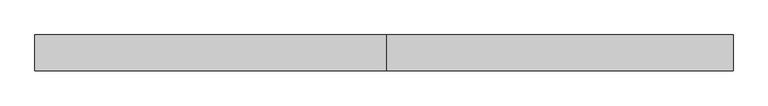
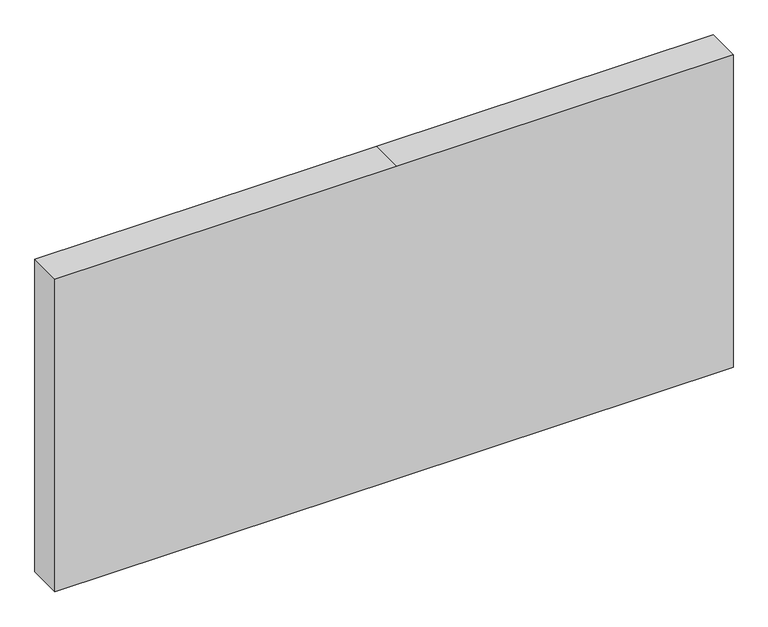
"""IFC4 building model written with IfcOpenShell, lengths in millimetres: plate geometry, Системная панель : Алюкобонд красный."""

from ifc_helpers import new_model, si_unit, frame, origin, place, context, project, spatial, polyline, outline, extrude, source, transform, mapped, element, save


def plate_3d1ef5a6(model_context):
    return source(origin(), model_context, "Body", "SweptSolid", [
        extrude(outline(polyline([(0.0, -585.0), (0.0, 5.0), (0.0, 585.0), (570.0, 585.0), (570.0, 5.0), (570.0, -585.0), (0.0, -585.0)])), frame((0.0, -10.5, 0.0), z_axis=(0.0, 1.0, 0.0), x_axis=(0.0, 0.0, 1.0)), (0.0, 0.0, 1.0), 60.0),
    ])


if __name__ == "__main__":
    model = new_model("IFC4")
    model_context = context("Model", 3, world=origin())
    ifc_project = project(units=[si_unit("LENGTHUNIT", "METRE", prefix="MILLI")], contexts=[model_context])
    site = spatial("IfcSite", under=ifc_project)
    building = spatial("IfcBuilding", under=site)
    placement = place(None, origin())
    plate_shape = plate_3d1ef5a6(model_context)
    element("IfcPlate", 1, ObjectType="Системная панель : Алюкобонд красный", at=placement, inside=building, context=model_context, shape_type="MappedRepresentation", body=[
        mapped(plate_shape, transform((0.0, 0.0, 0.0), x_axis=(1.0, 0.0, 0.0), y_axis=(0.0, 1.0, 0.0), z_axis=(0.0, 0.0, 1.0))),
    ])
    save(model, "model.ifc")
